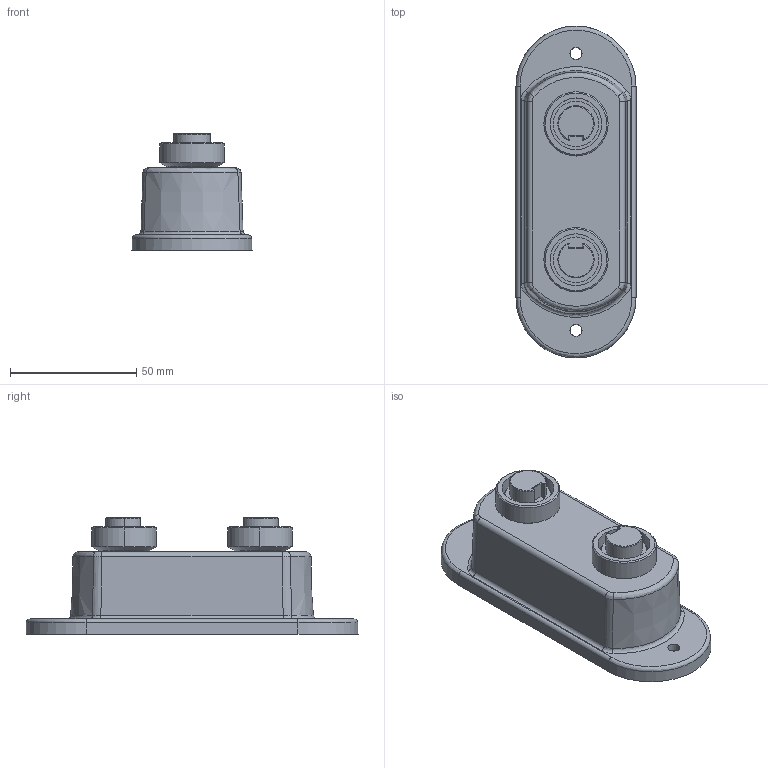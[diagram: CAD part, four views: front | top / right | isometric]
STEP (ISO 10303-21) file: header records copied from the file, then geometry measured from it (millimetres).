
FILE_DESCRIPTION (( 'STEP AP203' ), '1' );
FILE_NAME ('CA-2-RKF.STEP', '2022-08-22T19:44:13', ( '' ), ( '' ), 'SwSTEP 2.0', 'SolidWorks 2017', '' );
FILE_SCHEMA (( 'CONFIG_CONTROL_DESIGN' ));
Length unit declared in the file: millimetre
Products named in the file (1): CA-2-RKF
Bounding box: 47.5 x 131.35 x 46.27 mm (x, y, z)
Volume: 65439.2 mm3; surface area: 40091.3 mm2
Topology: 1 solids, 4 shells, 449 faces, 1027 edges, 628 vertices
Faces by surface type: cylinder 183, plane 120, cone 76, bspline 70
Entity records: 14646 total; most frequent: CARTESIAN_POINT 4738, DIRECTION 2059, ORIENTED_EDGE 2038, EDGE_CURVE 1019, AXIS2_PLACEMENT_3D 811, VERTEX_POINT 628, EDGE_LOOP 507, ADVANCED_FACE 449
